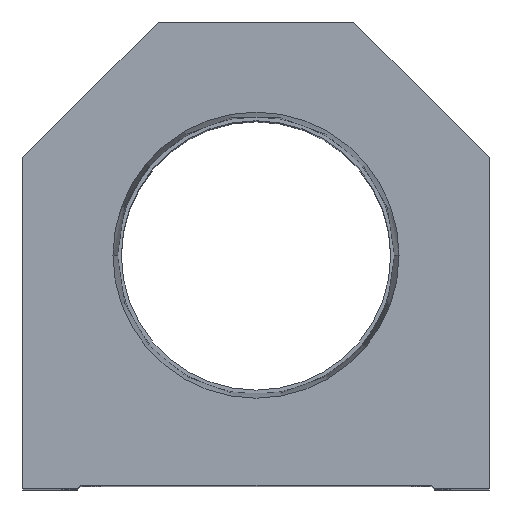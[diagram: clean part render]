
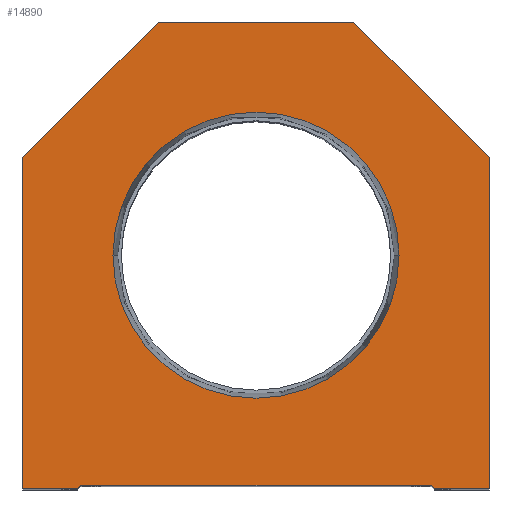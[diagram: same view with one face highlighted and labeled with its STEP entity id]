
A CAD part, top view. The second image highlights one B-rep face of the part: STEP entity #14890.
In plain terms, the highlighted planar face has unit normal (0, 0, 1).
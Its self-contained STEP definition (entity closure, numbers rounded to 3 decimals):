
#27 = VERTEX_POINT ( 'NONE', #3948 ) ;
#190 = LINE ( 'NONE', #4265, #10460 ) ;
#231 = EDGE_CURVE ( 'NONE', #15940, #8256, #16985, .T. ) ;
#391 = EDGE_CURVE ( 'NONE', #9392, #5540, #5285, .T. ) ;
#502 = VECTOR ( 'NONE', #10743, 1000. ) ;
#694 = VERTEX_POINT ( 'NONE', #13754 ) ;
#714 = EDGE_CURVE ( 'NONE', #3090, #7106, #190, .T. ) ;
#776 = EDGE_CURVE ( 'NONE', #8710, #3090, #15602, .T. ) ;
#1096 = CARTESIAN_POINT ( 'NONE',  ( -28.6, 0.5, 0. ) ) ;
#1387 = DIRECTION ( 'NONE',  ( 0., 0., 1. ) ) ;
#2304 = VECTOR ( 'NONE', #12598, 1000. ) ;
#3090 = VERTEX_POINT ( 'NONE', #16075 ) ;
#3138 = VECTOR ( 'NONE', #3639, 1000. ) ;
#3393 = DIRECTION ( 'NONE',  ( 0., -1., 0. ) ) ;
#3417 = CARTESIAN_POINT ( 'NONE',  ( -28.6, 0., 0. ) ) ;
#3482 = AXIS2_PLACEMENT_3D ( 'NONE', #8739, #17404, #9054 ) ;
#3486 = VECTOR ( 'NONE', #14592, 1000. ) ;
#3580 = LINE ( 'NONE', #14554, #8063 ) ;
#3636 = DIRECTION ( 'NONE',  ( -0.707, 0.707, 0. ) ) ;
#3639 = DIRECTION ( 'NONE',  ( 1., 0., 0. ) ) ;
#3673 = CARTESIAN_POINT ( 'NONE',  ( -38.1, 54.1, 0. ) ) ;
#3948 = CARTESIAN_POINT ( 'NONE',  ( 38.1, 0., 0. ) ) ;
#4181 = DIRECTION ( 'NONE',  ( -1., 0., 0. ) ) ;
#4259 = CARTESIAN_POINT ( 'NONE',  ( 38.1, 0., 0. ) ) ;
#4265 = CARTESIAN_POINT ( 'NONE',  ( 16., 76.2, 0. ) ) ;
#4317 = CIRCLE ( 'NONE', #3482, 23.374 ) ;
#4330 = ORIENTED_EDGE ( 'NONE', *, *, #231, .T. ) ;
#4789 = CARTESIAN_POINT ( 'NONE',  ( 28.6, 0., 0. ) ) ;
#5161 = ORIENTED_EDGE ( 'NONE', *, *, #15686, .F. ) ;
#5166 = CARTESIAN_POINT ( 'NONE',  ( 23.374, 38.1, 0. ) ) ;
#5285 = LINE ( 'NONE', #1096, #502 ) ;
#5305 = LINE ( 'NONE', #16087, #3486 ) ;
#5540 = VERTEX_POINT ( 'NONE', #9460 ) ;
#5653 = ORIENTED_EDGE ( 'NONE', *, *, #8214, .T. ) ;
#5867 = CARTESIAN_POINT ( 'NONE',  ( 0., 38.1, 0. ) ) ;
#5980 = AXIS2_PLACEMENT_3D ( 'NONE', #5867, #16769, #7272 ) ;
#6056 = LINE ( 'NONE', #4789, #3138 ) ;
#6301 = CARTESIAN_POINT ( 'NONE',  ( 38.1, 54.1, 0. ) ) ;
#6368 = EDGE_CURVE ( 'NONE', #27, #8710, #10714, .T. ) ;
#6440 = VECTOR ( 'NONE', #17237, 1000. ) ;
#6507 = DIRECTION ( 'NONE',  ( -0.707, -0.707, 0. ) ) ;
#6795 = PLANE ( 'NONE',  #7144 ) ;
#6950 = ORIENTED_EDGE ( 'NONE', *, *, #11536, .T. ) ;
#6978 = EDGE_LOOP ( 'NONE', ( #4330, #9019, #15831, #5653, #6950, #7043, #15749, #13099, #15323, #10423 ) ) ;
#7043 = ORIENTED_EDGE ( 'NONE', *, *, #6368, .T. ) ;
#7106 = VERTEX_POINT ( 'NONE', #14651 ) ;
#7144 = AXIS2_PLACEMENT_3D ( 'NONE', #12285, #1387, #17522 ) ;
#7215 = CARTESIAN_POINT ( 'NONE',  ( -14.55, 14.55, 0. ) ) ;
#7272 = DIRECTION ( 'NONE',  ( 1., 0., 0. ) ) ;
#7627 = EDGE_LOOP ( 'NONE', ( #13997, #5161 ) ) ;
#8063 = VECTOR ( 'NONE', #3393, 1000. ) ;
#8214 = EDGE_CURVE ( 'NONE', #5540, #17100, #5305, .T. ) ;
#8256 = VERTEX_POINT ( 'NONE', #10868 ) ;
#8710 = VERTEX_POINT ( 'NONE', #8781 ) ;
#8739 = CARTESIAN_POINT ( 'NONE',  ( 0., 38.1, 0. ) ) ;
#8781 = CARTESIAN_POINT ( 'NONE',  ( 38.1, 54.1, 0. ) ) ;
#8990 = LINE ( 'NONE', #3673, #9760 ) ;
#9019 = ORIENTED_EDGE ( 'NONE', *, *, #12074, .T. ) ;
#9054 = DIRECTION ( 'NONE',  ( 1., 0., 0. ) ) ;
#9392 = VERTEX_POINT ( 'NONE', #16309 ) ;
#9460 = CARTESIAN_POINT ( 'NONE',  ( 28.6, 0.5, 0. ) ) ;
#9752 = DIRECTION ( 'NONE',  ( 0., 1., 0. ) ) ;
#9760 = VECTOR ( 'NONE', #6507, 1000. ) ;
#10353 = EDGE_CURVE ( 'NONE', #7106, #694, #8990, .T. ) ;
#10423 = ORIENTED_EDGE ( 'NONE', *, *, #10574, .T. ) ;
#10460 = VECTOR ( 'NONE', #4181, 1000. ) ;
#10574 = EDGE_CURVE ( 'NONE', #694, #15940, #3580, .T. ) ;
#10625 = CARTESIAN_POINT ( 'NONE',  ( -23.374, 38.1, 0. ) ) ;
#10714 = LINE ( 'NONE', #4259, #15583 ) ;
#10743 = DIRECTION ( 'NONE',  ( 1., 0., 0. ) ) ;
#10759 = CIRCLE ( 'NONE', #5980, 23.374 ) ;
#10868 = CARTESIAN_POINT ( 'NONE',  ( -29.1, 0., 0. ) ) ;
#11536 = EDGE_CURVE ( 'NONE', #17100, #27, #6056, .T. ) ;
#11682 = CARTESIAN_POINT ( 'NONE',  ( -38.1, 0., 0. ) ) ;
#11692 = EDGE_CURVE ( 'NONE', #14114, #12291, #10759, .T. ) ;
#12074 = EDGE_CURVE ( 'NONE', #8256, #9392, #12516, .T. ) ;
#12285 = CARTESIAN_POINT ( 'NONE',  ( 0., 0., 0. ) ) ;
#12291 = VERTEX_POINT ( 'NONE', #10625 ) ;
#12516 = LINE ( 'NONE', #7215, #2304 ) ;
#12598 = DIRECTION ( 'NONE',  ( 0.707, 0.707, 0. ) ) ;
#13099 = ORIENTED_EDGE ( 'NONE', *, *, #714, .T. ) ;
#13610 = FACE_OUTER_BOUND ( 'NONE', #6978, .T. ) ;
#13754 = CARTESIAN_POINT ( 'NONE',  ( -38.1, 54.1, 0. ) ) ;
#13997 = ORIENTED_EDGE ( 'NONE', *, *, #11692, .F. ) ;
#14114 = VERTEX_POINT ( 'NONE', #5166 ) ;
#14554 = CARTESIAN_POINT ( 'NONE',  ( -38.1, 0., 0. ) ) ;
#14563 = CARTESIAN_POINT ( 'NONE',  ( 29.1, 0., 0. ) ) ;
#14592 = DIRECTION ( 'NONE',  ( 0.707, -0.707, 0. ) ) ;
#14651 = CARTESIAN_POINT ( 'NONE',  ( -16., 76.2, 0. ) ) ;
#14779 = FACE_BOUND ( 'NONE', #7627, .T. ) ;
#14890 = ADVANCED_FACE ( 'NONE', ( #14779, #13610 ), #6795, .T. ) ;
#15323 = ORIENTED_EDGE ( 'NONE', *, *, #10353, .T. ) ;
#15329 = VECTOR ( 'NONE', #3636, 1000. ) ;
#15583 = VECTOR ( 'NONE', #9752, 1000. ) ;
#15602 = LINE ( 'NONE', #6301, #15329 ) ;
#15686 = EDGE_CURVE ( 'NONE', #12291, #14114, #4317, .T. ) ;
#15749 = ORIENTED_EDGE ( 'NONE', *, *, #776, .T. ) ;
#15831 = ORIENTED_EDGE ( 'NONE', *, *, #391, .T. ) ;
#15940 = VERTEX_POINT ( 'NONE', #11682 ) ;
#16075 = CARTESIAN_POINT ( 'NONE',  ( 16., 76.2, 0. ) ) ;
#16087 = CARTESIAN_POINT ( 'NONE',  ( 14.55, 14.55, 0. ) ) ;
#16309 = CARTESIAN_POINT ( 'NONE',  ( -28.6, 0.5, 0. ) ) ;
#16769 = DIRECTION ( 'NONE',  ( 0., 0., 1. ) ) ;
#16985 = LINE ( 'NONE', #3417, #6440 ) ;
#17100 = VERTEX_POINT ( 'NONE', #14563 ) ;
#17237 = DIRECTION ( 'NONE',  ( 1., 0., 0. ) ) ;
#17404 = DIRECTION ( 'NONE',  ( 0., 0., 1. ) ) ;
#17522 = DIRECTION ( 'NONE',  ( 1., 0., 0. ) ) ;
